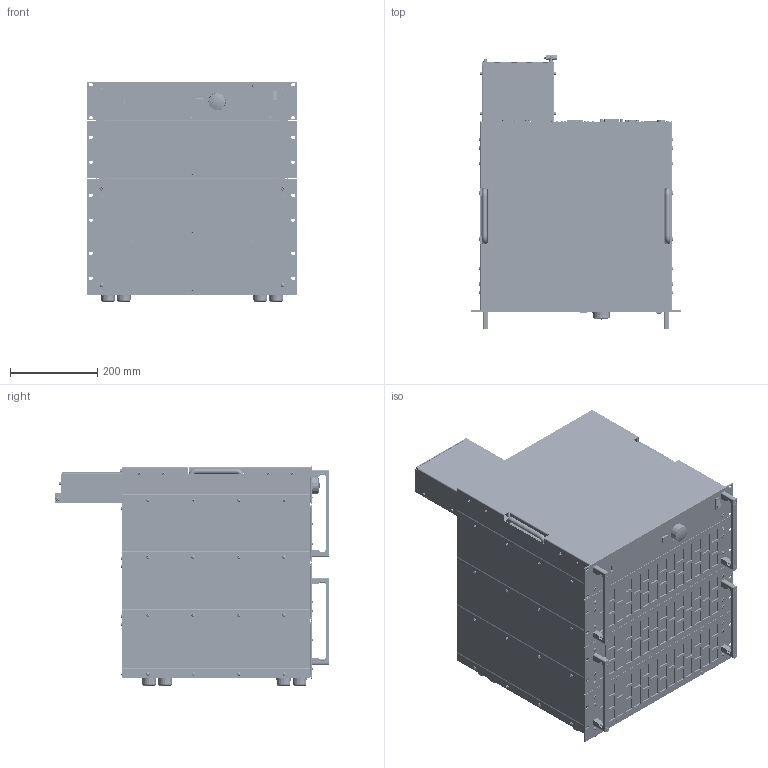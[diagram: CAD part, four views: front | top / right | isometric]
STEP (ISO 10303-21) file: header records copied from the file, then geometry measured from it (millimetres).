
FILE_DESCRIPTION(('STEP AP214'),'1');
FILE_NAME('QL_M33_19Z_11HE_FKS25_10_SM10_3D_01.step','2022-03-16T08:41:07',(' '),(' '),'Spatial InterOp 3D',' ',' ');
FILE_SCHEMA(('AUTOMOTIVE_DESIGN { 1 0 10303 214 1 1 1 1 }'));
Length unit declared in the file: millimetre
Products named in the file (54): 3HE_Leistungsteil_mit_Gummifüssen_3D_01; *U404; *U405; *U406; *U415; AutoCreatedBlock_4620; 3HE_Leistungsteil_3D_01; *U715; *U716; *U717; AutoCreatedBlock_4646; DIN 966-A; Steuereinheit_CU25X10_mit_BG452_3D_01; 2121_Steuerteil_modular_Seitenteil_links_3D_02; 2122_Steuerteil_modular_Seitenteil_rechts_3D_02; A$C5EF2ED09; 3xM2.5_5x5x12; AutoCreatedBlock_4666; A$C6092449D; Frontplatte_5HE_Steuerteil_mit_Einbauten_3D; A$C60925E47; A$C60A76697; 2246_QL Rückwand Steuerteil 5HE_mit_Einbauten_3D_01; *U305; *U306; *U307; AutoCreatedBlock_4678; 2257_QL_IO Panel Standard_3D_01; 2084_IO-Port Abdeckung_3D_01; *U766; *U767; *U768; *U769; *U770; *U771; Eingansschienen_CU25X10_3D; *U772; SAB_QL-5; *U662; *U663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
Assembly tree (186 placements, depth 4):
  (unnamed)
    3HE_Leistungsteil_mit_Gummifüssen_3D_01
      *U404  x10
      *U405  x6
      *U406  x6
      *U415  x6
      AutoCreatedBlock_4620
    3HE_Leistungsteil_3D_01  x2
      *U715
      *U716
      *U717
      AutoCreatedBlock_4646
    DIN 966-A  x8
    Steuereinheit_CU25X10_mit_BG452_3D_01
      2121_Steuerteil_modular_Seitenteil_links_3D_02
      2122_Steuerteil_modular_Seitenteil_rechts_3D_02
      A$C5EF2ED09
        3xM2.5_5x5x12  x2
        AutoCreatedBlock_4666
      A$C6092449D
      Frontplatte_5HE_Steuerteil_mit_Einbauten_3D
      A$C60925E47
      A$C60A76697
      2246_QL Rückwand Steuerteil 5HE_mit_Einbauten_3D_01
        *U305
        *U306  x2
        *U307  x3
        AutoCreatedBlock_4678
      2257_QL_IO Panel Standard_3D_01
      2084_IO-Port Abdeckung_3D_01  x2
      *U766  x17
      *U767  x9
      *U768  x2
      *U769  x4
      *U770  x2
      *U771  x2
      Eingansschienen_CU25X10_3D
      *U772  x26
      SAB_QL-5
        *U662
        *U663  x2
        *U664  x3
        *U665  x2
        *U666  x8
        *U667  x4
        *U668  x2
        *U669  x2
        AutoCreatedBlock_4706
      *U781  x2
      BG452_mit_MT1955_3D_01
        *U685  x2
        AutoCreatedBlock_4726
      AutoCreatedBlock_4656
    AutoCreatedBlock_4616
Bounding box: 482.61 x 630.75 x 504.57 mm (x, y, z)
Volume: 41463495.1 mm3; surface area: 6201085.2 mm2
Topology: 479 solids, 1253 shells, 32220 faces, 82256 edges, 52316 vertices
Faces by surface type: plane 14075, cone 12137, cylinder 4928, torus 463, sphere 332, bspline 269, extrusion 16
Entity records: 889465 total; most frequent: CARTESIAN_POINT 159974, DIRECTION 117940, ORIENTED_EDGE 109532, EDGE_CURVE 56183, AXIS2_PLACEMENT_3D 40754, VECTOR 36432, LINE 36416, VERTEX_POINT 35557
